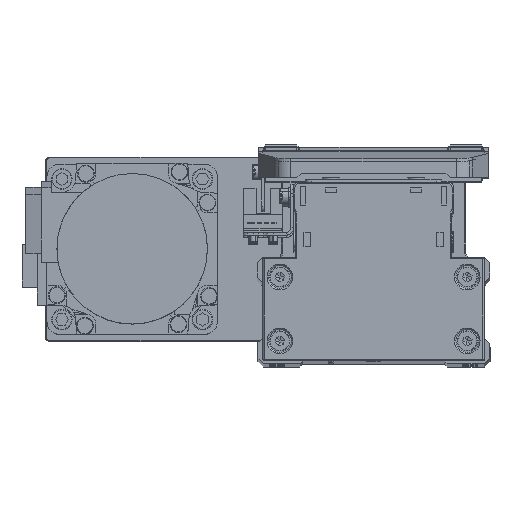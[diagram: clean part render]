
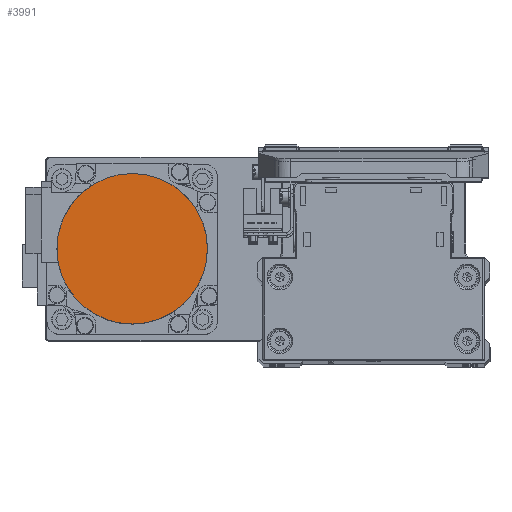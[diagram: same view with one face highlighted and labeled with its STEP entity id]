
A CAD part, top view. The second image highlights one B-rep face of the part: STEP entity #3991.
In plain terms, the highlighted planar face has unit normal (0, 0, 1) as drawn and (0, 0, -1) by its records, which use the part's own axes.
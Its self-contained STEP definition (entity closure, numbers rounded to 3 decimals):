
#568 = DIRECTION ( 'NONE',  ( 1., 0., 0. ) ) ;
#3991 = ADVANCED_FACE ( 'NONE', ( #10500 ), #23108, .F. ) ;
#7417 = DIRECTION ( 'NONE',  ( 0., 0., 1. ) ) ;
#7548 = EDGE_CURVE ( 'NONE', #35520, #31438, #21348, .T. ) ;
#8014 = CARTESIAN_POINT ( 'NONE',  ( 0., 0., -109.7 ) ) ;
#10228 = CARTESIAN_POINT ( 'NONE',  ( 26.5, 0., -109.7 ) ) ;
#10500 = FACE_OUTER_BOUND ( 'NONE', #32110, .T. ) ;
#12881 = EDGE_CURVE ( 'NONE', #31438, #35520, #21132, .T. ) ;
#13350 = CARTESIAN_POINT ( 'NONE',  ( -26.5, 0., -109.7 ) ) ;
#16296 = CARTESIAN_POINT ( 'NONE',  ( 0., 0., -109.7 ) ) ;
#19993 = DIRECTION ( 'NONE',  ( 1., 0., 0. ) ) ;
#20609 = DIRECTION ( 'NONE',  ( 0., 0., 1. ) ) ;
#21132 = CIRCLE ( 'NONE', #26425, 26.5 ) ;
#21348 = CIRCLE ( 'NONE', #26628, 26.5 ) ;
#23108 = PLANE ( 'NONE',  #26287 ) ;
#26287 = AXIS2_PLACEMENT_3D ( 'NONE', #35686, #7417, #19993 ) ;
#26379 = ORIENTED_EDGE ( 'NONE', *, *, #12881, .F. ) ;
#26425 = AXIS2_PLACEMENT_3D ( 'NONE', #16296, #28894, #568 ) ;
#26628 = AXIS2_PLACEMENT_3D ( 'NONE', #8014, #20609, #33196 ) ;
#28894 = DIRECTION ( 'NONE',  ( 0., 0., 1. ) ) ;
#31438 = VERTEX_POINT ( 'NONE', #10228 ) ;
#32110 = EDGE_LOOP ( 'NONE', ( #38402, #26379 ) ) ;
#33196 = DIRECTION ( 'NONE',  ( -1., 0., 0. ) ) ;
#35520 = VERTEX_POINT ( 'NONE', #13350 ) ;
#35686 = CARTESIAN_POINT ( 'NONE',  ( 0., 0., -109.7 ) ) ;
#38402 = ORIENTED_EDGE ( 'NONE', *, *, #7548, .F. ) ;
